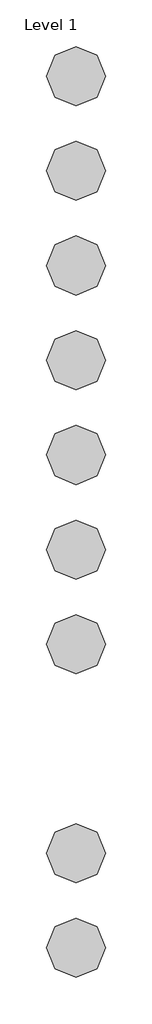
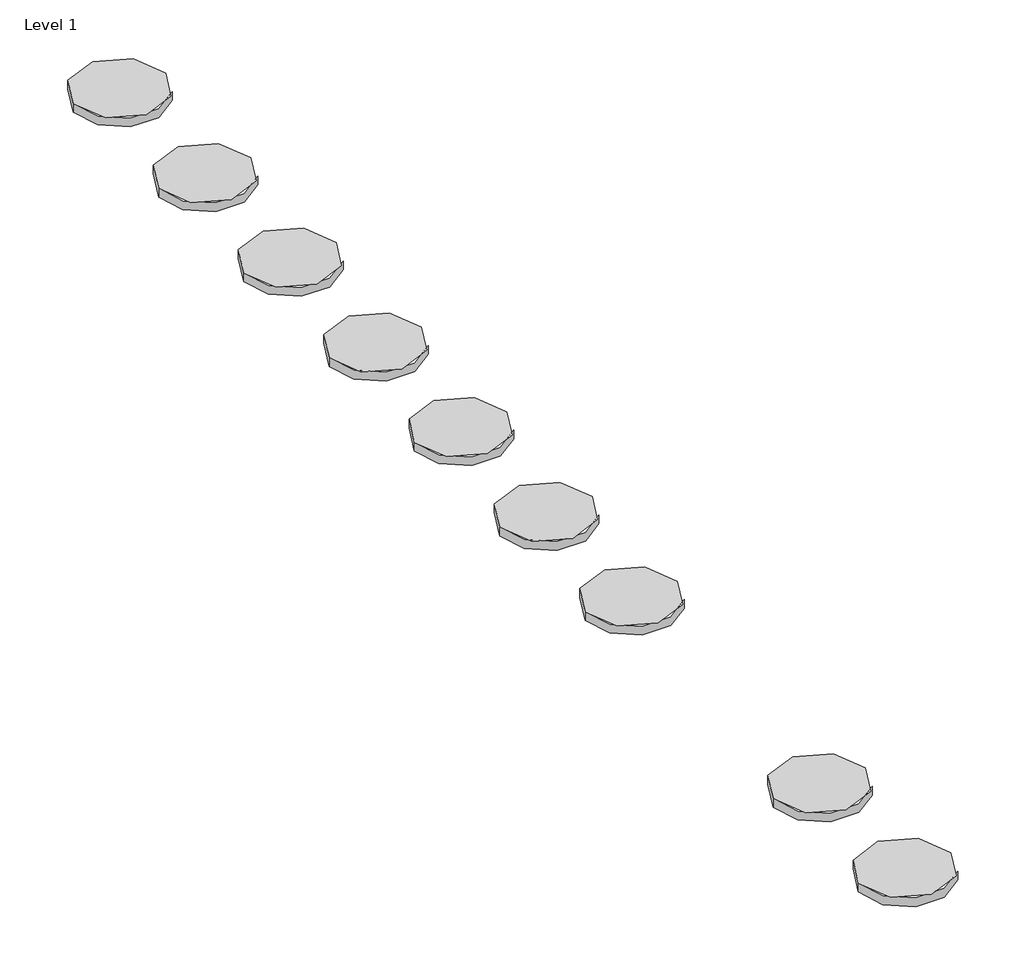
# One storey, incomplete: 9 proxies.
"""IFC4 building model written with IfcOpenShell, lengths in millimetres."""

from ifc_helpers import new_model, si_unit, origin, place, context, project, spatial, transform, mapped, element, save
from components import materialmodel_materialmodel_ac00f72a

model = new_model("IFC4")

# Units and contexts
model_context = context("Model", 3, world=origin())
ifc_project = project(units=[si_unit("LENGTHUNIT", "METRE", prefix="MILLI")], contexts=[model_context])

# Site, building, storey
site = spatial("IfcSite", under=ifc_project)
building = spatial("IfcBuilding", under=site)
storey = spatial("IfcBuildingStorey", under=building, Name="Level 1", Elevation=0.0)

# Proxies
placement = place(None, origin())
materialmodel_materialmodel_shape = materialmodel_materialmodel_ac00f72a(model_context)
element("IfcBuildingElementProxy", 1, Name="MaterialModel : MaterialModel", ObjectType="MaterialModel : MaterialModel", at=placement, inside=storey, context=model_context, shape_type="MappedRepresentation", body=[
    mapped(materialmodel_materialmodel_shape, transform((-10754.6197057, 8922.2381954, 0.0), x_axis=(1.0, 0.0, 0.0), y_axis=(0.0, 1.0, 0.0), z_axis=(0.0, 0.0, 1.0))),
])
element("IfcBuildingElementProxy", 2, Name="MaterialModel : MaterialModel", ObjectType="MaterialModel : MaterialModel", at=placement, inside=storey, context=model_context, shape_type="MappedRepresentation", body=[
    mapped(materialmodel_materialmodel_shape, transform((-10754.6197057, 6296.5025341, 0.0), x_axis=(1.0, 0.0, 0.0), y_axis=(0.0, 1.0, 0.0), z_axis=(0.0, 0.0, 1.0))),
])
element("IfcBuildingElementProxy", 3, Name="MaterialModel : MaterialModel", ObjectType="MaterialModel : MaterialModel", at=placement, inside=storey, context=model_context, shape_type="MappedRepresentation", body=[
    mapped(materialmodel_materialmodel_shape, transform((-10754.6197057, 8602.2381954, 0.0), x_axis=(1.0, 0.0, 0.0), y_axis=(0.0, 1.0, 0.0), z_axis=(0.0, 0.0, 1.0))),
])
element("IfcBuildingElementProxy", 4, Name="MaterialModel : MaterialModel", ObjectType="MaterialModel : MaterialModel", at=placement, inside=storey, context=model_context, shape_type="MappedRepresentation", body=[
    mapped(materialmodel_materialmodel_shape, transform((-10754.6197057, 8282.2381954, 0.0), x_axis=(1.0, 0.0, 0.0), y_axis=(0.0, 1.0, 0.0), z_axis=(0.0, 0.0, 1.0))),
])
element("IfcBuildingElementProxy", 5, Name="MaterialModel : MaterialModel", ObjectType="MaterialModel : MaterialModel", at=placement, inside=storey, context=model_context, shape_type="MappedRepresentation", body=[
    mapped(materialmodel_materialmodel_shape, transform((-10754.6197057, 7962.2381954, 0.0), x_axis=(1.0, 0.0, 0.0), y_axis=(0.0, 1.0, 0.0), z_axis=(0.0, 0.0, 1.0))),
])
element("IfcBuildingElementProxy", 6, Name="MaterialModel : MaterialModel", ObjectType="MaterialModel : MaterialModel", at=placement, inside=storey, context=model_context, shape_type="MappedRepresentation", body=[
    mapped(materialmodel_materialmodel_shape, transform((-10754.6197057, 7642.2381954, 0.0), x_axis=(1.0, 0.0, 0.0), y_axis=(0.0, 1.0, 0.0), z_axis=(0.0, 0.0, 1.0))),
])
element("IfcBuildingElementProxy", 7, Name="MaterialModel : MaterialModel", ObjectType="MaterialModel : MaterialModel", at=placement, inside=storey, context=model_context, shape_type="MappedRepresentation", body=[
    mapped(materialmodel_materialmodel_shape, transform((-10754.6197057, 7322.2381954, 0.0), x_axis=(1.0, 0.0, 0.0), y_axis=(0.0, 1.0, 0.0), z_axis=(0.0, 0.0, 1.0))),
])
element("IfcBuildingElementProxy", 8, Name="MaterialModel : MaterialModel", ObjectType="MaterialModel : MaterialModel", at=placement, inside=storey, context=model_context, shape_type="MappedRepresentation", body=[
    mapped(materialmodel_materialmodel_shape, transform((-10754.6197057, 7002.2381954, 0.0), x_axis=(1.0, 0.0, 0.0), y_axis=(0.0, 1.0, 0.0), z_axis=(0.0, 0.0, 1.0))),
])
element("IfcBuildingElementProxy", 9, Name="MaterialModel : MaterialModel", ObjectType="MaterialModel : MaterialModel", at=placement, inside=storey, context=model_context, shape_type="MappedRepresentation", body=[
    mapped(materialmodel_materialmodel_shape, transform((-10754.6197057, 5976.5025341, 0.0), x_axis=(1.0, 0.0, 0.0), y_axis=(0.0, 1.0, 0.0), z_axis=(0.0, 0.0, 1.0))),
])

save(model, "model.ifc")
